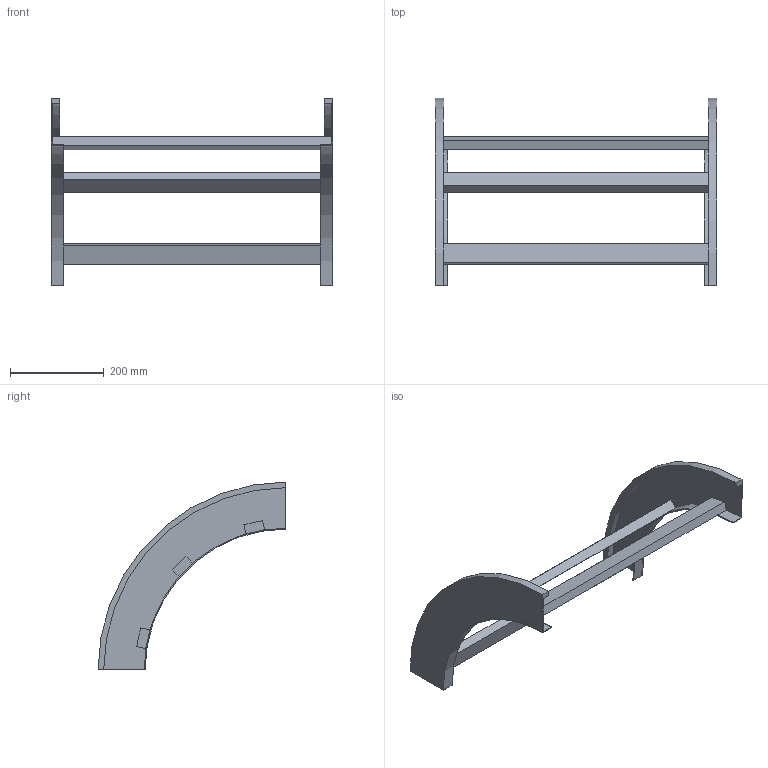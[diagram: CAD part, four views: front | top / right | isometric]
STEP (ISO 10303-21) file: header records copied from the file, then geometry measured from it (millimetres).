
FILE_DESCRIPTION (( 'STEP AP214' ), '1' );
FILE_NAME ('B2_33B3D600.step', '2025-02-21T15:02:35', ( '' ), ( '' ), 'SwSTEP 2.0', 'SolidWorks 2023', '' );
FILE_SCHEMA (( 'AUTOMOTIVE_DESIGN' ));
Length unit declared in the file: millimetre
Products named in the file (3): B2_33B3D600; TRAVERSINO_600; B2_LONGH.DISCESA_90°_H100_R300
Assembly tree (5 placements, depth 2):
  B2_33B3D600
    B2_LONGH.DISCESA_90°_H100_R300  x2
    TRAVERSINO_600  x3
Bounding box: 600 x 400 x 400 mm (x, y, z)
Volume: 1953127.7 mm3; surface area: 534175.9 mm2
Topology: 5 solids, 5 shells, 38 faces, 84 edges, 56 vertices
Faces by surface type: plane 30, cylinder 8
Entity records: 560 total; most frequent: DIRECTION 92, CARTESIAN_POINT 84, ORIENTED_EDGE 72, EDGE_CURVE 36, AXIS2_PLACEMENT_3D 32, LINE 28, VECTOR 28, VERTEX_POINT 24
